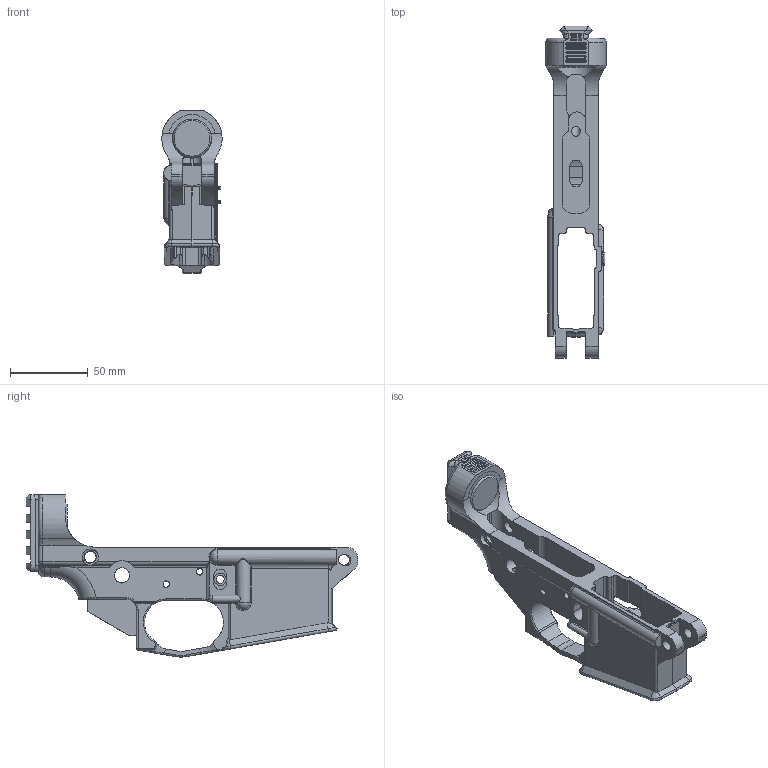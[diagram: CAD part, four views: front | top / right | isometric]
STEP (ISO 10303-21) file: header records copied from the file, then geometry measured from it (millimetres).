
FILE_DESCRIPTION(/* description */ (''),/* implementation_level */ '2;1');
FILE_NAME(/* name */ 'D:/Users/Admin/Documents/SW1522/STEP/SC1522.step',/* time_stamp */ '2020-10-31T19:11:02-04:00',/* author */ (''),/* organization */ (''),/* preprocessor_version */ 'ST-DEVELOPER v18.1',/* originating_system */ 'Autodesk Translation Framework v9.3.0.1241',/* authorisation */ '');
FILE_SCHEMA (('AUTOMOTIVE_DESIGN { 1 0 10303 214 3 1 1 }'));
Length unit declared in the file: millimetre
Products named in the file (1): SC1522
Bounding box: 38.75 x 213.55 x 104.4 mm (x, y, z)
Volume: 129691 mm3; surface area: 56419.3 mm2
Topology: 2 solids, 2 shells, 555 faces, 1495 edges, 932 vertices
Faces by surface type: cylinder 212, plane 198, bspline 88, torus 37, cone 14, sphere 6
Full cylindrical faces by diameter (mm): 3.962 x2, 4.2 x1, 4.262 x2, 4.9 x1, 5.182 x1, 5.537 x1, 7 x2, 7.475 x2, 7.925 x3, 9.85 x2, 10.476 x2
Entity records: 22540 total; most frequent: CARTESIAN_POINT 9055, ORIENTED_EDGE 2960, DIRECTION 2675, EDGE_CURVE 1480, AXIS2_PLACEMENT_3D 980, VERTEX_POINT 932, LINE 715, VECTOR 715
